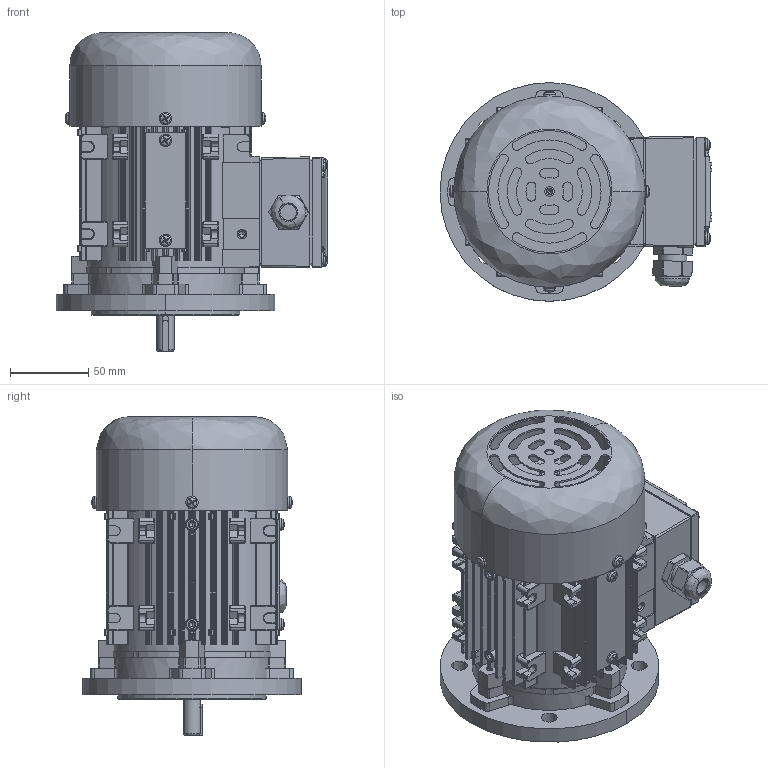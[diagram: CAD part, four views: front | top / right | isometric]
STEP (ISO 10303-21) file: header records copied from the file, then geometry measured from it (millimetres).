
FILE_DESCRIPTION (( 'STEP AP214' ), '1' );
FILE_NAME ('ACI-PMAB020-4R4FABT.STEP', '2011-06-20T16:15:08', ( '' ), ( '' ), 'SwSTEP 2.0', 'SolidWorks 2011', '' );
FILE_SCHEMA (( 'AUTOMOTIVE_DESIGN' ));
Length unit declared in the file: inch
Products named in the file (17): Key; NAME PLATE PMAB020-4R4FA; JIS B 1180 C _X2_C804CCB4_X0_ _X2_C2A4B808B4DC_X0_ - _X2_BBF8D130_X0_ C M5 x 20; JIS B 1251 _X2_BC88D638_X0_ 2 6; 63M 200W FLANGE COVER L_T; BED; CAP; JIS B 1111 Z - _X2_BBF8D130_X0_ A M4 x 14 - Z; KS B 1023 - A  M 4 x 6 - H(1); RUBBER GASKET A 20080702; LEAD BOX B 20080702; LEAD BOX A 20080717; 63M 200W SHAFT 20090416; 63M 200W FAN COVER 20090417; 63M 200W REAR COVER L_T 20090417; 63M 200W FRAME L_T 20090417; ACI-PMAB020-4R4FABT
Assembly tree (39 placements, depth 2):
  ACI-PMAB020-4R4FABT
    JIS B 1180 C _X2_C804CCB4_X0_ _X2_C2A4B808B4DC_X0_ - _X2_BBF8D130_X0_ C M5 x 20  x8
    KS B 1023 - A  M 4 x 6 - H(1)  x6
    LEAD BOX A 20080717
    63M 200W REAR COVER L_T 20090417
    JIS B 1251 _X2_BC88D638_X0_ 2 6  x8
    NAME PLATE PMAB020-4R4FA
    RUBBER GASKET A 20080702  x2
    63M 200W FAN COVER 20090417
    JIS B 1111 Z - _X2_BBF8D130_X0_ A M4 x 14 - Z  x4
    BED
    Key
    CAP
    63M 200W FRAME L_T 20090417
    63M 200W SHAFT 20090416
    LEAD BOX B 20080702
    63M 200W FLANGE COVER L_T
Bounding box: 174 x 140 x 204 mm (x, y, z)
Volume: 376687.1 mm3; surface area: 330287.1 mm2
Topology: 38 solids, 39 shells, 3425 faces, 9272 edges, 5897 vertices
Faces by surface type: cylinder 1335, plane 1294, cone 473, bspline 319, torus 4
Entity records: 108027 total; most frequent: CARTESIAN_POINT 32227, ORIENTED_EDGE 14858, DIRECTION 14108, EDGE_CURVE 7457, AXIS2_PLACEMENT_3D 5224, VERTEX_POINT 4799, LINE 3660, VECTOR 3660
